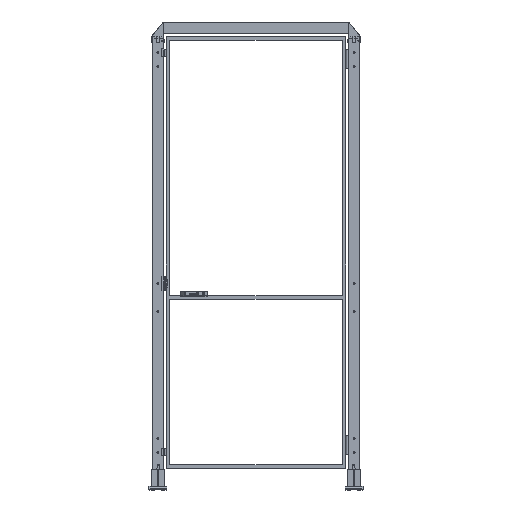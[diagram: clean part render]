
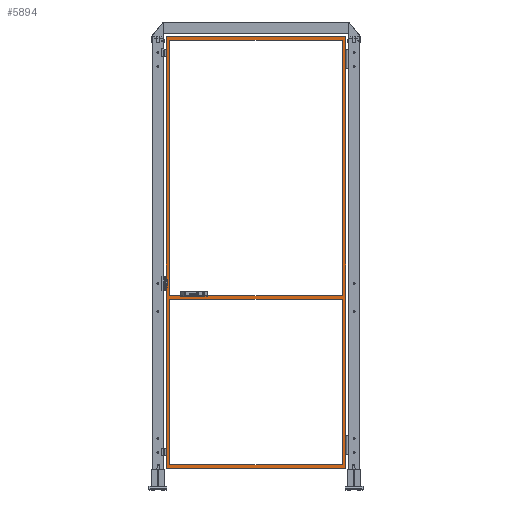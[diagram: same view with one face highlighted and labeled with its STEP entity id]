
A CAD part, top view. The second image highlights one B-rep face of the part: STEP entity #5894.
In plain terms, the highlighted planar face has unit normal (0, 0, 1).
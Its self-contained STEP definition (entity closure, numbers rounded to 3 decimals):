
#5894=ADVANCED_FACE('',(#12068,#12069,#12070),#12071,.F.);
#12068=FACE_BOUND('',#19807,.T.);
#12069=FACE_OUTER_BOUND('',#19808,.T.);
#12070=FACE_BOUND('',#19809,.T.);
#12071=PLANE('',#19810);
#19807=EDGE_LOOP('',(#37257,#37258,#37259,#37260));
#19808=EDGE_LOOP('',(#37261,#37262,#37263,#37264));
#19809=EDGE_LOOP('',(#37265,#37266,#37267,#37268));
#19810=AXIS2_PLACEMENT_3D('',#37269,#37270,#37271);
#37257=ORIENTED_EDGE('',*,*,#44399,.F.);
#37258=ORIENTED_EDGE('',*,*,#44405,.T.);
#37259=ORIENTED_EDGE('',*,*,#44427,.T.);
#37260=ORIENTED_EDGE('',*,*,#44432,.F.);
#37261=ORIENTED_EDGE('',*,*,#44443,.F.);
#37262=ORIENTED_EDGE('',*,*,#44437,.F.);
#37263=ORIENTED_EDGE('',*,*,#44407,.F.);
#37264=ORIENTED_EDGE('',*,*,#44441,.F.);
#37265=ORIENTED_EDGE('',*,*,#44429,.F.);
#37266=ORIENTED_EDGE('',*,*,#44424,.F.);
#37267=ORIENTED_EDGE('',*,*,#44435,.T.);
#37268=ORIENTED_EDGE('',*,*,#44444,.T.);
#37269=CARTESIAN_POINT('',(515.0,130.0,10.0));
#37270=DIRECTION('',(0.,0.0,-1.0));
#37271=DIRECTION('',(-1.0,0.0,0.));
#44399=EDGE_CURVE('',#54881,#54884,#54885,.T.);
#44405=EDGE_CURVE('',#54881,#54892,#54894,.T.);
#44407=EDGE_CURVE('',#54896,#54897,#54898,.T.);
#44424=EDGE_CURVE('',#54924,#54922,#54926,.T.);
#44427=EDGE_CURVE('',#54892,#54928,#54930,.T.);
#44429=EDGE_CURVE('',#54922,#54932,#54933,.T.);
#44432=EDGE_CURVE('',#54884,#54928,#54936,.T.);
#44435=EDGE_CURVE('',#54924,#54938,#54940,.T.);
#44437=EDGE_CURVE('',#54897,#54942,#54943,.T.);
#44441=EDGE_CURVE('',#54946,#54896,#54948,.T.);
#44443=EDGE_CURVE('',#54942,#54946,#54950,.T.);
#44444=EDGE_CURVE('',#54938,#54932,#54951,.T.);
#54881=VERTEX_POINT('',#70715);
#54884=VERTEX_POINT('',#70719);
#54885=LINE('',#70720,#70721);
#54892=VERTEX_POINT('',#70731);
#54894=LINE('',#70734,#70735);
#54896=VERTEX_POINT('',#70737);
#54897=VERTEX_POINT('',#70738);
#54898=LINE('',#70739,#70740);
#54922=VERTEX_POINT('',#70776);
#54924=VERTEX_POINT('',#70779);
#54926=LINE('',#70782,#70783);
#54928=VERTEX_POINT('',#70785);
#54930=LINE('',#70788,#70789);
#54932=VERTEX_POINT('',#70791);
#54933=LINE('',#70792,#70793);
#54936=LINE('',#70797,#70798);
#54938=VERTEX_POINT('',#70800);
#54940=LINE('',#70803,#70804);
#54942=VERTEX_POINT('',#70806);
#54943=LINE('',#70807,#70808);
#54946=VERTEX_POINT('',#70812);
#54948=LINE('',#70815,#70816);
#54950=LINE('',#70818,#70819);
#54951=LINE('',#70820,#70821);
#70715=CARTESIAN_POINT('',(995.0,2500.0,10.));
#70719=CARTESIAN_POINT('',(35.,2500.0,10.0));
#70720=CARTESIAN_POINT('',(515.0,2500.0,10.0));
#70721=VECTOR('',#78397,1.0);
#70731=CARTESIAN_POINT('',(995.0,1080.0,10.));
#70734=CARTESIAN_POINT('',(995.0,1320.0,10.));
#70735=VECTOR('',#78402,1.0);
#70737=CARTESIAN_POINT('',(15.0,120.0,10.0));
#70738=CARTESIAN_POINT('',(15.,2520.0,10.0));
#70739=CARTESIAN_POINT('',(15.0,130.0,10.0));
#70740=VECTOR('',#78403,1.0);
#70776=CARTESIAN_POINT('',(35.,1060.0,10.0));
#70779=CARTESIAN_POINT('',(995.0,1060.0,10.));
#70782=CARTESIAN_POINT('',(515.0,1060.0,10.0));
#70783=VECTOR('',#78418,1.0);
#70785=CARTESIAN_POINT('',(35.,1080.0,10.0));
#70788=CARTESIAN_POINT('',(515.0,1080.0,10.0));
#70789=VECTOR('',#78420,1.0);
#70791=CARTESIAN_POINT('',(35.0,140.0,10.0));
#70792=CARTESIAN_POINT('',(35.,1320.0,10.0));
#70793=VECTOR('',#78421,1.0);
#70797=CARTESIAN_POINT('',(35.,1320.0,10.0));
#70798=VECTOR('',#78423,1.0);
#70800=CARTESIAN_POINT('',(995.0,140.0,10.));
#70803=CARTESIAN_POINT('',(995.0,1320.0,10.));
#70804=VECTOR('',#78425,1.0);
#70806=CARTESIAN_POINT('',(1015.0,2520.0,10.));
#70807=CARTESIAN_POINT('',(25.,2520.0,10.0));
#70808=VECTOR('',#78426,1.0);
#70812=CARTESIAN_POINT('',(1015.0,120.0,10.));
#70815=CARTESIAN_POINT('',(515.0,120.0,10.0));
#70816=VECTOR('',#78429,1.0);
#70818=CARTESIAN_POINT('',(1015.0,1320.0,10.));
#70819=VECTOR('',#78430,1.0);
#70820=CARTESIAN_POINT('',(515.0,140.0,10.0));
#70821=VECTOR('',#78431,1.0);
#78397=DIRECTION('',(-1.0,0.0,0.));
#78402=DIRECTION('',(0.,-1.0,0.));
#78403=DIRECTION('',(0.0,1.0,0.0));
#78418=DIRECTION('',(-1.0,0.0,0.));
#78420=DIRECTION('',(-1.0,0.0,0.));
#78421=DIRECTION('',(0.,-1.0,0.));
#78423=DIRECTION('',(0.,-1.0,0.));
#78425=DIRECTION('',(0.,-1.0,0.));
#78426=DIRECTION('',(1.0,0.,0.));
#78429=DIRECTION('',(-1.0,0.0,0.));
#78430=DIRECTION('',(0.,-1.0,0.));
#78431=DIRECTION('',(-1.0,0.0,0.));
